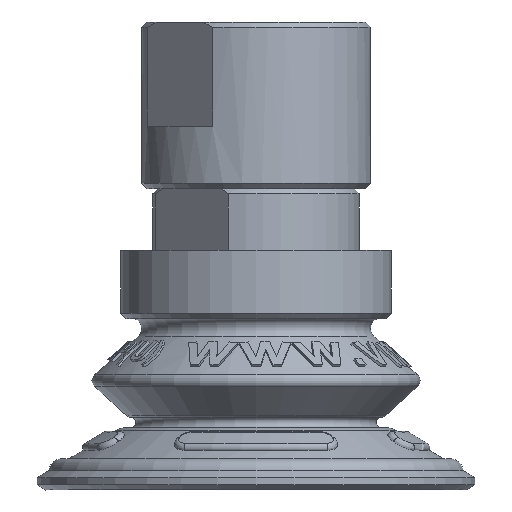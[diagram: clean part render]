
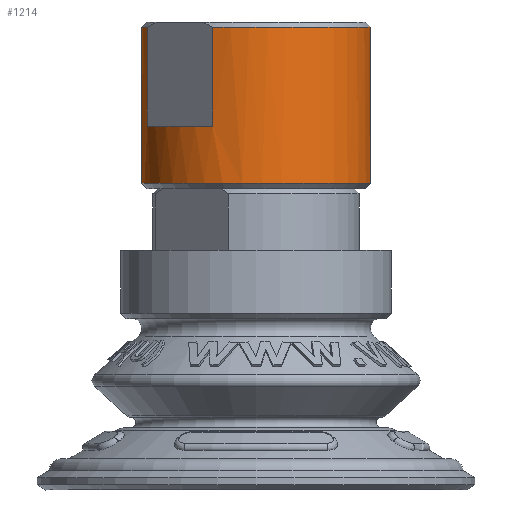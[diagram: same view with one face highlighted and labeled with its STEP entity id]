
A CAD part, front view. The second image highlights one B-rep face of the part: STEP entity #1214.
In plain terms, the highlighted cylindrical face has radius 11 mm (diameter 22 mm), a full revolution.
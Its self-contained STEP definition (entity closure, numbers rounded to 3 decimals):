
#1214 = ADVANCED_FACE( '', ( #2606, #2607 ), #2608, .T. );
#2606 = FACE_OUTER_BOUND( '', #9184, .T. );
#2607 = FACE_OUTER_BOUND( '', #9185, .T. );
#2608 = CYLINDRICAL_SURFACE( '', #9186, 11. );
#9184 = EDGE_LOOP( '', ( #14124 ) );
#9185 = EDGE_LOOP( '', ( #14125, #14126, #14127, #14128, #14129, #14130, #14131, #14132 ) );
#9186 = AXIS2_PLACEMENT_3D( '', #14133, #14134, #14135 );
#14124 = ORIENTED_EDGE( '', *, *, #15351, .T. );
#14125 = ORIENTED_EDGE( '', *, *, #16125, .F. );
#14126 = ORIENTED_EDGE( '', *, *, #15292, .T. );
#14127 = ORIENTED_EDGE( '', *, *, #15347, .F. );
#14128 = ORIENTED_EDGE( '', *, *, #16244, .F. );
#14129 = ORIENTED_EDGE( '', *, *, #15684, .T. );
#14130 = ORIENTED_EDGE( '', *, *, #16243, .T. );
#14131 = ORIENTED_EDGE( '', *, *, #15611, .F. );
#14132 = ORIENTED_EDGE( '', *, *, #15294, .F. );
#14133 = CARTESIAN_POINT( '', ( 0., 0., 33.44 ) );
#14134 = DIRECTION( '', ( 0., 0., -1. ) );
#14135 = DIRECTION( '', ( 0.683, -0.73, 0. ) );
#15292 = EDGE_CURVE( '', #17234, #17235, #17236, .T. );
#15294 = EDGE_CURVE( '', #17237, #17239, #17240, .T. );
#15347 = EDGE_CURVE( '', #17327, #17235, #17328, .T. );
#15351 = EDGE_CURVE( '', #17333, #17333, #17334, .T. );
#15611 = EDGE_CURVE( '', #17239, #17744, #17745, .T. );
#15684 = EDGE_CURVE( '', #17852, #17853, #17854, .T. );
#16125 = EDGE_CURVE( '', #17234, #17237, #18477, .T. );
#16243 = EDGE_CURVE( '', #17853, #17744, #18617, .T. );
#16244 = EDGE_CURVE( '', #17852, #17327, #18618, .T. );
#17234 = VERTEX_POINT( '', #20781 );
#17235 = VERTEX_POINT( '', #20782 );
#17236 = LINE( '', #20783, #20784 );
#17237 = VERTEX_POINT( '', #20785 );
#17239 = VERTEX_POINT( '', #20788 );
#17240 = LINE( '', #20789, #20790 );
#17327 = VERTEX_POINT( '', #20951 );
#17328 = CIRCLE( '', #20952, 11. );
#17333 = VERTEX_POINT( '', #20960 );
#17334 = CIRCLE( '', #20961, 11. );
#17744 = VERTEX_POINT( '', #22401 );
#17745 = CIRCLE( '', #22402, 11. );
#17852 = VERTEX_POINT( '', #22859 );
#17853 = VERTEX_POINT( '', #22860 );
#17854 = CIRCLE( '', #22861, 11. );
#18477 = CIRCLE( '', #25430, 11. );
#18617 = LINE( '', #25932, #25933 );
#18618 = LINE( '', #25934, #25935 );
#20781 = CARTESIAN_POINT( '', ( -10.434, -3.484, 23.44 ) );
#20782 = CARTESIAN_POINT( '', ( -10.434, -3.484, 32.94 ) );
#20783 = CARTESIAN_POINT( '', ( -10.434, -3.484, 23.44 ) );
#20784 = VECTOR( '', #26791, 1000. );
#20785 = CARTESIAN_POINT( '', ( -4.173, -10.178, 23.44 ) );
#20788 = CARTESIAN_POINT( '', ( -4.173, -10.178, 32.94 ) );
#20789 = CARTESIAN_POINT( '', ( -4.173, -10.178, 23.44 ) );
#20790 = VECTOR( '', #26793, 1000. );
#20951 = CARTESIAN_POINT( '', ( 4.173, 10.178, 32.94 ) );
#20952 = AXIS2_PLACEMENT_3D( '', #26834, #26835, #26836 );
#20960 = CARTESIAN_POINT( '', ( 7.514, -8.034, 17.94 ) );
#20961 = AXIS2_PLACEMENT_3D( '', #26840, #26841, #26842 );
#22401 = CARTESIAN_POINT( '', ( 10.434, 3.484, 32.94 ) );
#22402 = AXIS2_PLACEMENT_3D( '', #27021, #27022, #27023 );
#22859 = CARTESIAN_POINT( '', ( 4.173, 10.178, 23.44 ) );
#22860 = CARTESIAN_POINT( '', ( 10.434, 3.484, 23.44 ) );
#22861 = AXIS2_PLACEMENT_3D( '', #27062, #27063, #27064 );
#25430 = AXIS2_PLACEMENT_3D( '', #27408, #27409, #27410 );
#25932 = CARTESIAN_POINT( '', ( 10.434, 3.484, 23.44 ) );
#25933 = VECTOR( '', #27490, 1000. );
#25934 = CARTESIAN_POINT( '', ( 4.173, 10.178, 23.44 ) );
#25935 = VECTOR( '', #27491, 1000. );
#26791 = DIRECTION( '', ( 0., 0., 1. ) );
#26793 = DIRECTION( '', ( 0., 0., 1. ) );
#26834 = CARTESIAN_POINT( '', ( 0., 0., 32.94 ) );
#26835 = DIRECTION( '', ( 0., 0., 1. ) );
#26836 = DIRECTION( '', ( 0.683, -0.73, 0. ) );
#26840 = CARTESIAN_POINT( '', ( 0., 0., 17.94 ) );
#26841 = DIRECTION( '', ( 0., 0., 1. ) );
#26842 = DIRECTION( '', ( 0.683, -0.73, 0. ) );
#27021 = CARTESIAN_POINT( '', ( 0., 0., 32.94 ) );
#27022 = DIRECTION( '', ( 0., 0., 1. ) );
#27023 = DIRECTION( '', ( 0.683, -0.73, 0. ) );
#27062 = CARTESIAN_POINT( '', ( 0., 0., 23.44 ) );
#27063 = DIRECTION( '', ( 0., 0., -1. ) );
#27064 = DIRECTION( '', ( 0.683, -0.73, 0. ) );
#27408 = CARTESIAN_POINT( '', ( 0., 0., 23.44 ) );
#27409 = DIRECTION( '', ( 0., 0., 1. ) );
#27410 = DIRECTION( '', ( 0.683, -0.73, 0. ) );
#27490 = DIRECTION( '', ( 0., 0., 1. ) );
#27491 = DIRECTION( '', ( 0., 0., 1. ) );
